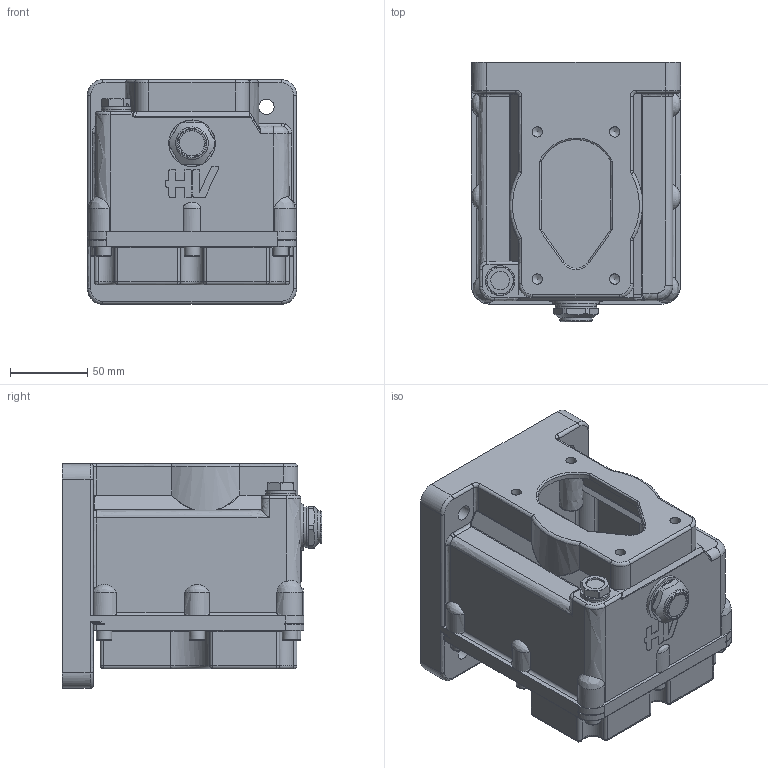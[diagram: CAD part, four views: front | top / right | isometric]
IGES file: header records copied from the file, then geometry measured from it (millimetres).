
Global section: file name: No Iges File Name specified; native system: Autodesk Inventor 2013; preprocessor: AutoDesk Inventor Iges Exporter R2013; author: christian.scardovi; date: 20240917.073519; units: millimetre
Bounding box: 135 x 167.5 x 145 mm (x, y, z)
Volume: 757559.4 mm3; surface area: 243133.7 mm2
Topology: 1 solids, 2 shells, 1116 faces, 2676 edges, 1567 vertices
Faces by surface type: bspline 1116
